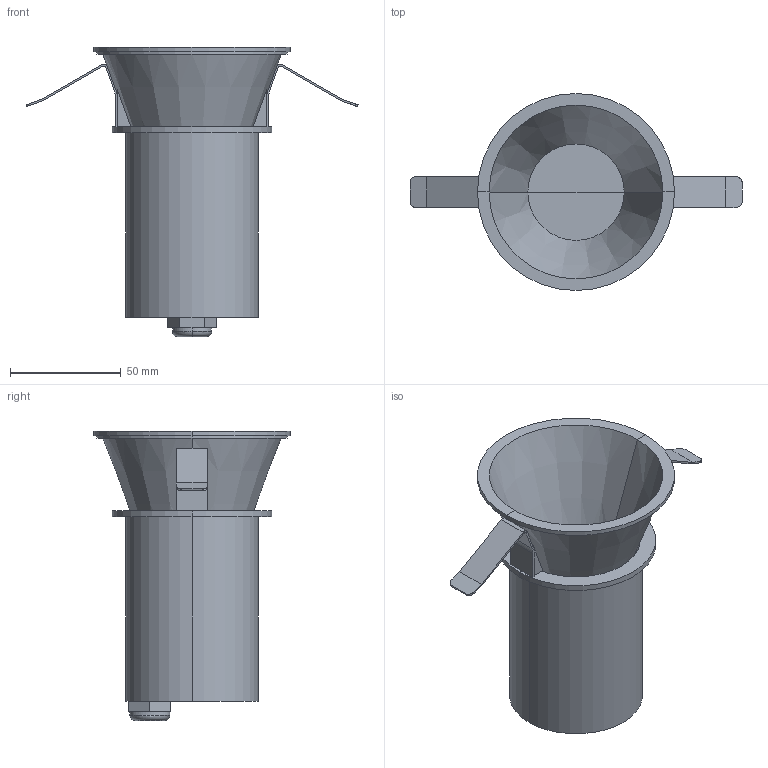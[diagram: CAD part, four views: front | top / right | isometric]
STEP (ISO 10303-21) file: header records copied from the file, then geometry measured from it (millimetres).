
FILE_DESCRIPTION(/* description */ (''),/* implementation_level */ '2;1');
FILE_NAME(/* name */ 'C:\Users\FrancoSartori\Documents\FARO\01_En Proceso\00_FRESH\03_Publicación\02101402.stp',/* time_stamp */ '2021-06-22T12:33:33+02:00',/* author */ ('FrancoSartori'),/* organization */ (''),/* preprocessor_version */ 'ST-DEVELOPER v18.1',/* originating_system */ 'AutoCAD Mechanical',/* authorisation */ '');
FILE_SCHEMA (('AUTOMOTIVE_DESIGN { 1 0 10303 214 3 1 1 }'));
Length unit declared in the file: millimetre
Products named in the file (2): Product; 02101401_ 02101402_ - Lamp-419072-_3D_
Assembly tree (1 placements, depth 2):
  Product
    02101401_ 02101402_ - Lamp-419072-_3D_
Bounding box: 150.04 x 89 x 130.7 mm (x, y, z)
Volume: 95128.2 mm3; surface area: 80188.9 mm2
Topology: 12 solids, 12 shells, 152 faces, 324 edges, 192 vertices
Faces by surface type: plane 88, cylinder 44, cone 12, torus 6, bspline 2
Entity records: 4157 total; most frequent: CARTESIAN_POINT 797, DIRECTION 718, ORIENTED_EDGE 648, EDGE_CURVE 324, AXIS2_PLACEMENT_3D 267, VERTEX_POINT 192, LINE 184, VECTOR 184
